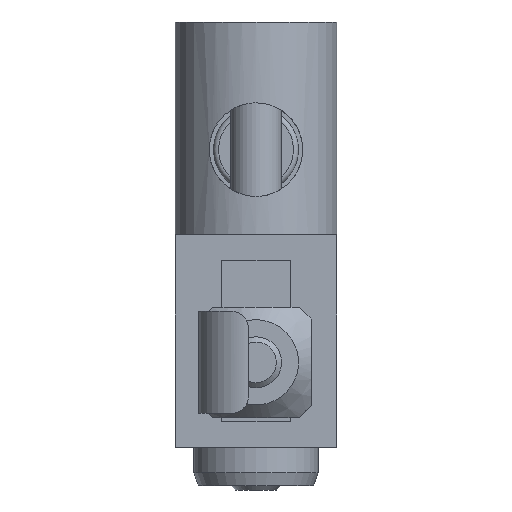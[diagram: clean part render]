
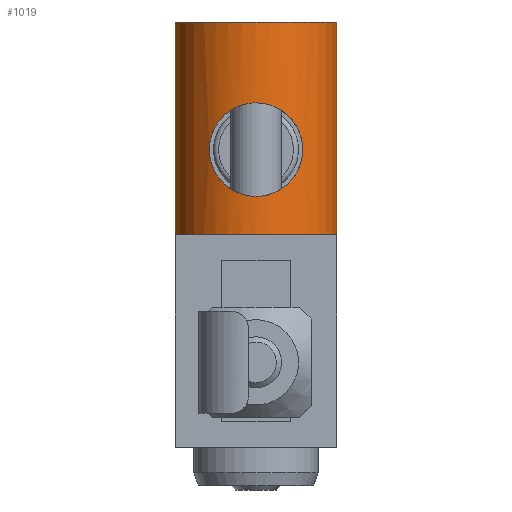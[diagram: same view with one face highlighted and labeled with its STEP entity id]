
A CAD part, front view. The second image highlights one B-rep face of the part: STEP entity #1019.
In plain terms, the highlighted cylindrical face has radius 9.5 mm (diameter 19 mm), a partial arc.
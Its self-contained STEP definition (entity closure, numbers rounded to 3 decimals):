
#863=CARTESIAN_POINT('',(0.,-69.479,19.5));
#864=VERTEX_POINT('',#863);
#865=CARTESIAN_POINT('',(0.,-69.479,30.5));
#866=VERTEX_POINT('',#865);
#867=CARTESIAN_POINT('',(0.,-69.479,19.5));
#868=CARTESIAN_POINT('',(0.354,-69.479,19.5));
#869=CARTESIAN_POINT('',(0.718,-69.499,19.535));
#870=CARTESIAN_POINT('',(1.436,-69.581,19.678));
#871=CARTESIAN_POINT('',(1.791,-69.643,19.787));
#872=CARTESIAN_POINT('',(2.467,-69.798,20.07));
#873=CARTESIAN_POINT('',(2.788,-69.892,20.246));
#874=CARTESIAN_POINT('',(3.38,-70.095,20.646));
#875=CARTESIAN_POINT('',(3.65,-70.205,20.872));
#876=CARTESIAN_POINT('',(4.129,-70.419,21.351));
#877=CARTESIAN_POINT('',(4.355,-70.533,21.622));
#878=CARTESIAN_POINT('',(4.755,-70.752,22.214));
#879=CARTESIAN_POINT('',(4.93,-70.857,22.534));
#880=CARTESIAN_POINT('',(5.213,-71.035,23.208));
#881=CARTESIAN_POINT('',(5.321,-71.109,23.561));
#882=CARTESIAN_POINT('',(5.465,-71.208,24.279));
#883=CARTESIAN_POINT('',(5.5,-71.233,24.644));
#884=CARTESIAN_POINT('',(5.5,-71.233,25.356));
#885=CARTESIAN_POINT('',(5.465,-71.208,25.721));
#886=CARTESIAN_POINT('',(5.321,-71.109,26.439));
#887=CARTESIAN_POINT('',(5.213,-71.035,26.792));
#888=CARTESIAN_POINT('',(4.93,-70.857,27.466));
#889=CARTESIAN_POINT('',(4.755,-70.752,27.786));
#890=CARTESIAN_POINT('',(4.355,-70.533,28.378));
#891=CARTESIAN_POINT('',(4.129,-70.419,28.649));
#892=CARTESIAN_POINT('',(3.65,-70.205,29.128));
#893=CARTESIAN_POINT('',(3.38,-70.095,29.354));
#894=CARTESIAN_POINT('',(2.788,-69.892,29.754));
#895=CARTESIAN_POINT('',(2.467,-69.798,29.93));
#896=CARTESIAN_POINT('',(1.791,-69.643,30.213));
#897=CARTESIAN_POINT('',(1.436,-69.581,30.322));
#898=CARTESIAN_POINT('',(0.718,-69.499,30.465));
#899=CARTESIAN_POINT('',(0.354,-69.479,30.5));
#900=CARTESIAN_POINT('',(0.,-69.479,30.5));
#901=B_SPLINE_CURVE_WITH_KNOTS('',3,(#867,#868,#869,#870,#871,#872,#873,#874,#875,#876,#877,#878,#879,#880,#881,#882,#883,#884,#885,#886,#887,#888,#889,#890,#891,#892,#893,#894,#895,#896,#897,#898,#899,#900),.UNSPECIFIED.,.F.,.U.,(4,2,2,2,2,2,2,2,2,2,2,2,2,2,2,2,4),(8.527,9.59,10.653,11.716,12.779,13.848,14.917,15.986,17.054,18.123,19.192,20.261,21.33,22.392,23.455,24.518,25.581),.UNSPECIFIED.);
#902=EDGE_CURVE('',#864,#866,#901,.T.);
#904=CARTESIAN_POINT('',(0.,-69.479,30.5));
#905=CARTESIAN_POINT('',(-0.354,-69.479,30.5));
#906=CARTESIAN_POINT('',(-0.718,-69.499,30.465));
#907=CARTESIAN_POINT('',(-1.436,-69.581,30.322));
#908=CARTESIAN_POINT('',(-1.791,-69.643,30.213));
#909=CARTESIAN_POINT('',(-2.467,-69.798,29.93));
#910=CARTESIAN_POINT('',(-2.788,-69.892,29.754));
#911=CARTESIAN_POINT('',(-3.38,-70.095,29.354));
#912=CARTESIAN_POINT('',(-3.65,-70.205,29.128));
#913=CARTESIAN_POINT('',(-4.129,-70.419,28.649));
#914=CARTESIAN_POINT('',(-4.355,-70.533,28.378));
#915=CARTESIAN_POINT('',(-4.755,-70.752,27.786));
#916=CARTESIAN_POINT('',(-4.93,-70.857,27.466));
#917=CARTESIAN_POINT('',(-5.213,-71.035,26.792));
#918=CARTESIAN_POINT('',(-5.321,-71.109,26.439));
#919=CARTESIAN_POINT('',(-5.465,-71.208,25.721));
#920=CARTESIAN_POINT('',(-5.5,-71.233,25.356));
#921=CARTESIAN_POINT('',(-5.5,-71.233,25.0));
#922=CARTESIAN_POINT('',(-5.5,-71.233,24.644));
#923=CARTESIAN_POINT('',(-5.465,-71.208,24.279));
#924=CARTESIAN_POINT('',(-5.321,-71.109,23.561));
#925=CARTESIAN_POINT('',(-5.213,-71.035,23.208));
#926=CARTESIAN_POINT('',(-4.93,-70.857,22.534));
#927=CARTESIAN_POINT('',(-4.755,-70.752,22.214));
#928=CARTESIAN_POINT('',(-4.355,-70.533,21.622));
#929=CARTESIAN_POINT('',(-4.129,-70.419,21.351));
#930=CARTESIAN_POINT('',(-3.65,-70.205,20.872));
#931=CARTESIAN_POINT('',(-3.38,-70.095,20.646));
#932=CARTESIAN_POINT('',(-2.788,-69.892,20.246));
#933=CARTESIAN_POINT('',(-2.467,-69.798,20.07));
#934=CARTESIAN_POINT('',(-1.791,-69.643,19.787));
#935=CARTESIAN_POINT('',(-1.436,-69.581,19.678));
#936=CARTESIAN_POINT('',(-0.718,-69.499,19.535));
#937=CARTESIAN_POINT('',(-0.354,-69.479,19.5));
#938=CARTESIAN_POINT('',(0.,-69.479,19.5));
#939=B_SPLINE_CURVE_WITH_KNOTS('',3,(#904,#905,#906,#907,#908,#909,#910,#911,#912,#913,#914,#915,#916,#917,#918,#919,#920,#921,#922,#923,#924,#925,#926,#927,#928,#929,#930,#931,#932,#933,#934,#935,#936,#937,#938),.UNSPECIFIED.,.F.,.U.,(4,2,2,2,2,2,2,2,3,2,2,2,2,2,2,2,4),(25.581,26.644,27.707,28.77,29.833,30.902,31.971,33.04,34.109,35.177,36.246,37.315,38.384,39.447,40.51,41.573,42.636),.UNSPECIFIED.);
#940=EDGE_CURVE('',#866,#864,#939,.T.);
#974=CARTESIAN_POINT('',(0.,-78.979,27.5));
#975=DIRECTION('',(0.0,0.0,1.0));
#976=DIRECTION('',(0.0,-1.0,0.0));
#977=AXIS2_PLACEMENT_3D('',#974,#975,#976);
#978=CYLINDRICAL_SURFACE('',#977,9.5);
#979=CARTESIAN_POINT('',(9.5,-78.979,40.));
#980=VERTEX_POINT('',#979);
#981=CARTESIAN_POINT('',(9.5,-78.979,15.));
#982=VERTEX_POINT('',#981);
#983=CARTESIAN_POINT('',(9.5,-78.979,40.));
#984=DIRECTION('',(0.0,0.0,-1.0));
#985=VECTOR('',#984,25.);
#986=LINE('',#983,#985);
#987=EDGE_CURVE('',#980,#982,#986,.T.);
#988=ORIENTED_EDGE('',*,*,#987,.T.);
#989=CARTESIAN_POINT('',(-9.5,-78.979,15.));
#990=VERTEX_POINT('',#989);
#991=CARTESIAN_POINT('',(0.,-78.979,15.0));
#992=DIRECTION('',(0.0,0.0,-1.0));
#993=DIRECTION('',(0.0,-1.0,0.0));
#994=AXIS2_PLACEMENT_3D('',#991,#992,#993);
#995=CIRCLE('',#994,9.5);
#996=EDGE_CURVE('',#990,#982,#995,.T.);
#997=ORIENTED_EDGE('',*,*,#996,.F.);
#998=CARTESIAN_POINT('',(-9.5,-78.979,40.));
#999=VERTEX_POINT('',#998);
#1000=CARTESIAN_POINT('',(-9.5,-78.979,15.));
#1001=DIRECTION('',(0.0,0.0,1.0));
#1002=VECTOR('',#1001,25.);
#1003=LINE('',#1000,#1002);
#1004=EDGE_CURVE('',#990,#999,#1003,.T.);
#1005=ORIENTED_EDGE('',*,*,#1004,.T.);
#1006=CARTESIAN_POINT('',(0.,-78.979,40.0));
#1007=DIRECTION('',(0.0,0.0,1.0));
#1008=DIRECTION('',(0.0,-1.0,0.0));
#1009=AXIS2_PLACEMENT_3D('',#1006,#1007,#1008);
#1010=CIRCLE('',#1009,9.5);
#1011=EDGE_CURVE('',#980,#999,#1010,.T.);
#1012=ORIENTED_EDGE('',*,*,#1011,.F.);
#1013=EDGE_LOOP('',(#988,#997,#1005,#1012));
#1014=FACE_OUTER_BOUND('',#1013,.T.);
#1015=ORIENTED_EDGE('',*,*,#902,.T.);
#1016=ORIENTED_EDGE('',*,*,#940,.T.);
#1017=EDGE_LOOP('',(#1015,#1016));
#1018=FACE_BOUND('',#1017,.T.);
#1019=ADVANCED_FACE('',(#1014,#1018),#978,.T.);
